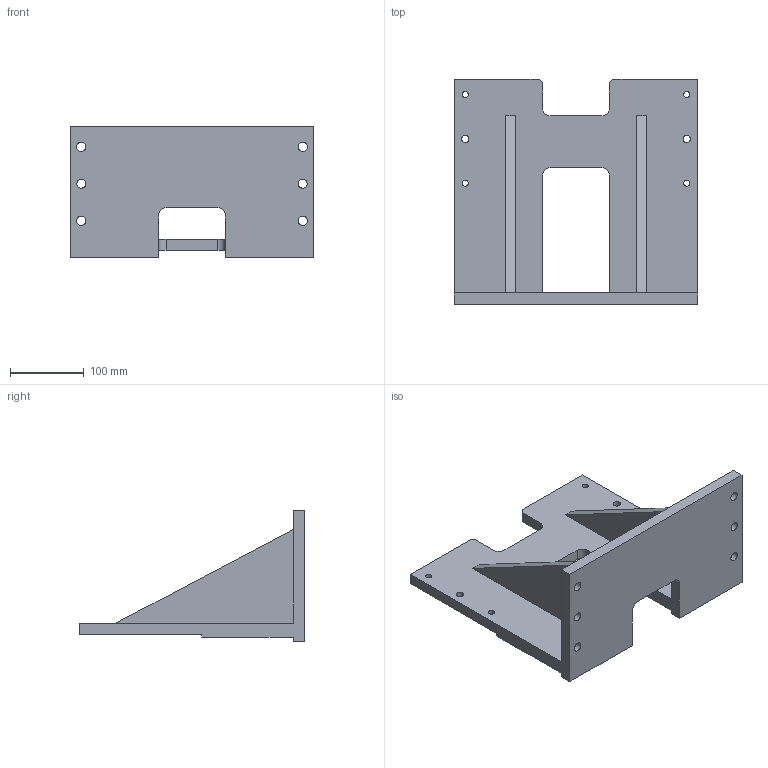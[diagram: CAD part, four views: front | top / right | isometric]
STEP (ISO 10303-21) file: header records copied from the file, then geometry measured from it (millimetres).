
FILE_DESCRIPTION(/* description */ ('DB4-RISER'),/* implementation_level */ '2;1');
FILE_NAME(/* name */ 'C:\Vault Workspace\CAD\Welker\Shot Pin\DBL40\S01896 DB4 Mounting Accessories\S01896E02\S01896E02-225.stp',/* time_stamp */ '2016-05-04T13:49:19-04:00',/* author */ ('klabrecque'),/* organization */ (''),/* preprocessor_version */ 'ST-DEVELOPER v15.2',/* originating_system */ 'Autodesk Inventor 2014',/* authorisation */ '');
FILE_SCHEMA (('AUTOMOTIVE_DESIGN { 1 0 10303 214 3 1 1 }'));
Length unit declared in the file: millimetre
Products named in the file (1): S01896E02-225
Bounding box: 330 x 306 x 177.8 mm (x, y, z)
Volume: 2474031.1 mm3; surface area: 357726.2 mm2
Topology: 1 solids, 1 shells, 50 faces, 162 edges, 112 vertices
Faces by surface type: plane 32, cylinder 18
Full cylindrical faces by diameter (mm): 8.376 x4, 10 x2, 12 x2, 12.5 x4
Entity records: 1753 total; most frequent: CARTESIAN_POINT 289, ORIENTED_EDGE 276, DIRECTION 276, EDGE_CURVE 138, LINE 102, VECTOR 102, VERTEX_POINT 100, AXIS2_PLACEMENT_3D 87
